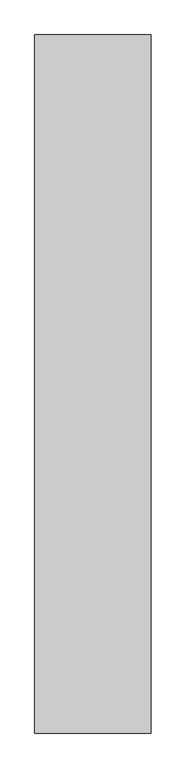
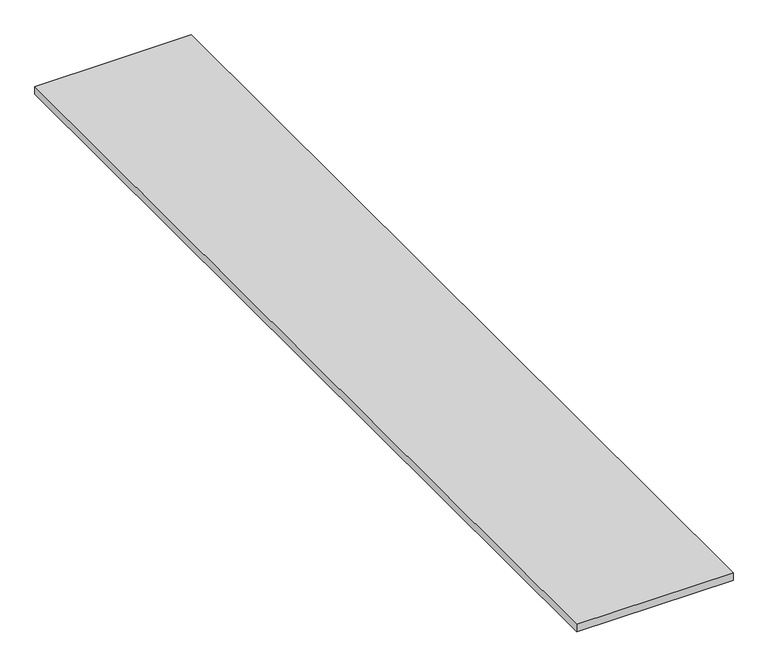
"""IFC4 building model written with IfcOpenShell, lengths in millimetres: furniture geometry, BIMHealth-Worktop_Nurses_Station-LOD2A-v1 : BIMHealth-Worktop_Nurses_Station-LOD2A-v1."""

from ifc_helpers import new_model, si_unit, origin, origin_with_axes, place, context, project, spatial, polyline, outline, extrude, source, transform, mapped, element, save


def furniture_0ca81bbc(model_context):
    return source(origin(), model_context, "Body", "SweptSolid", [
        extrude(outline(polyline([(-250.0, 1500.0), (0.0, 1500.0), (250.0, 1500.0), (250.0, -1500.0), (-250.0, -1500.0), (-250.0, 1500.0)])), origin_with_axes(), (0.0, 0.0, 1.0), 25.0),
    ])


if __name__ == "__main__":
    model = new_model("IFC4")
    model_context = context("Model", 3, world=origin())
    ifc_project = project(units=[si_unit("LENGTHUNIT", "METRE", prefix="MILLI")], contexts=[model_context])
    site = spatial("IfcSite", under=ifc_project)
    building = spatial("IfcBuilding", under=site)
    placement = place(None, origin())
    furniture_shape = furniture_0ca81bbc(model_context)
    element("IfcFurniture", 1, ObjectType="BIMHealth-Worktop_Nurses_Station-LOD2A-v1 : BIMHealth-Worktop_Nurses_Station-LOD2A-v1", at=placement, inside=building, context=model_context, shape_type="MappedRepresentation", body=[
        mapped(furniture_shape, transform((0.0, 0.0, 0.0), x_axis=(1.0, 0.0, 0.0), y_axis=(0.0, 1.0, 0.0), z_axis=(0.0, 0.0, 1.0))),
    ])
    save(model, "model.ifc")
